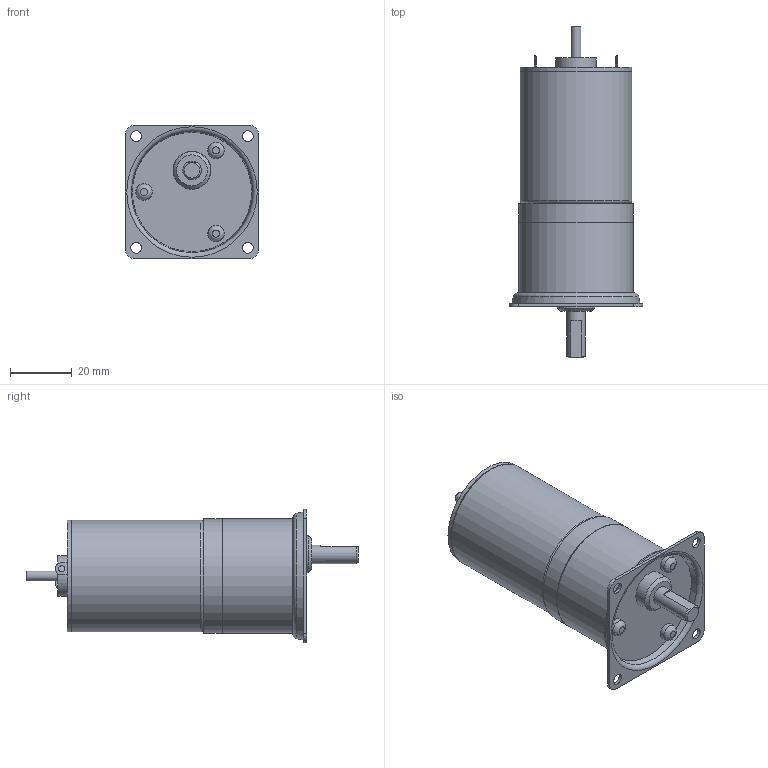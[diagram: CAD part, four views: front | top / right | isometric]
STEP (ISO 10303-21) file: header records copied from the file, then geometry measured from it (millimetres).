
FILE_DESCRIPTION((''),'2;1');
FILE_NAME('C:\Documents and Settings\SSEGAWA\デスクトップ\TP-3644L-PHM-4.STP','2013-07-26T18:52:52',('SSEGAWA'),(''),'Autodesk Inventor 2010','Autodesk Inventor 2010','');
FILE_SCHEMA(('CONFIG_CONTROL_DESIGN'));
Length unit declared in the file: millimetre
Products named in the file (1): tp_3644l_phm_4_Shrinkwrap_1
Bounding box: 43 x 107.1 x 43 mm (x, y, z)
Volume: 79161.2 mm3; surface area: 14844.2 mm2
Topology: 1 solids, 9 shells, 100 faces, 208 edges, 139 vertices
Faces by surface type: plane 43, cylinder 26, bspline 23, torus 4, cone 4
Full cylindrical faces by diameter (mm): 3 x1, 3.175 x1, 3.5 x1, 5.3 x3, 6 x1, 12 x1, 12.2 x1, 13 x1, 35.6 x1, 36 x2, 36.6 x1, 37 x2
Entity records: 2756 total; most frequent: CARTESIAN_POINT 828, DIRECTION 383, ORIENTED_EDGE 274, EDGE_LOOP 171, AXIS2_PLACEMENT_3D 170, EDGE_CURVE 137, VERTEX_POINT 114, STYLED_ITEM 101
